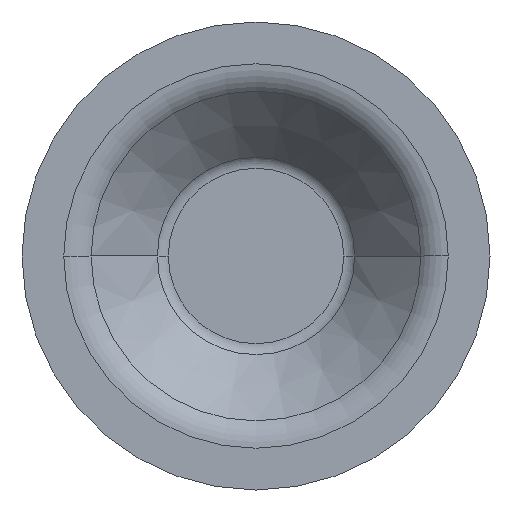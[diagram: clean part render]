
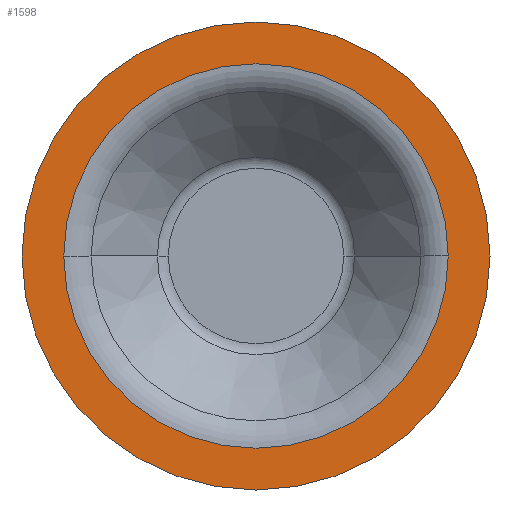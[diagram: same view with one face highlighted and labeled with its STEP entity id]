
A CAD part, front view. The second image highlights one B-rep face of the part: STEP entity #1598.
In plain terms, the highlighted planar face has unit normal (0, -1, 0).
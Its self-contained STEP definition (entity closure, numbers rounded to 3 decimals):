
#30 = CIRCLE ( 'NONE', #1418, 25.88 ) ;
#43 = EDGE_CURVE ( 'NONE', #1637, #225, #1575, .T. ) ;
#148 = DIRECTION ( 'NONE',  ( 0., -1., 0. ) ) ;
#171 = DIRECTION ( 'NONE',  ( 0., -1., 0. ) ) ;
#189 = FACE_OUTER_BOUND ( 'NONE', #989, .T. ) ;
#192 = DIRECTION ( 'NONE',  ( 0., -1., 0. ) ) ;
#212 = ORIENTED_EDGE ( 'NONE', *, *, #1488, .F. ) ;
#225 = VERTEX_POINT ( 'NONE', #723 ) ;
#262 = ORIENTED_EDGE ( 'NONE', *, *, #1585, .F. ) ;
#293 = VERTEX_POINT ( 'NONE', #564 ) ;
#311 = DIRECTION ( 'NONE',  ( 1., 0., 0. ) ) ;
#358 = DIRECTION ( 'NONE',  ( 0., -1., 0. ) ) ;
#396 = CARTESIAN_POINT ( 'NONE',  ( 0., -15., 0. ) ) ;
#417 = CARTESIAN_POINT ( 'NONE',  ( 0., -15., 0. ) ) ;
#438 = AXIS2_PLACEMENT_3D ( 'NONE', #585, #192, #936 ) ;
#477 = CARTESIAN_POINT ( 'NONE',  ( 0., -15., 0. ) ) ;
#499 = VERTEX_POINT ( 'NONE', #998 ) ;
#564 = CARTESIAN_POINT ( 'NONE',  ( 25.88, -15., 0. ) ) ;
#567 = CARTESIAN_POINT ( 'NONE',  ( 31.5, -15., 0. ) ) ;
#585 = CARTESIAN_POINT ( 'NONE',  ( 0., -15., 0. ) ) ;
#652 = DIRECTION ( 'NONE',  ( -1., 0., 0. ) ) ;
#665 = DIRECTION ( 'NONE',  ( 0., -1., 0. ) ) ;
#667 = AXIS2_PLACEMENT_3D ( 'NONE', #417, #665, #1177 ) ;
#723 = CARTESIAN_POINT ( 'NONE',  ( -31.5, -15., 0. ) ) ;
#813 = CIRCLE ( 'NONE', #1239, 31.5 ) ;
#819 = FACE_BOUND ( 'NONE', #1562, .T. ) ;
#863 = EDGE_CURVE ( 'NONE', #225, #1637, #813, .T. ) ;
#926 = PLANE ( 'NONE',  #1520 ) ;
#936 = DIRECTION ( 'NONE',  ( 1., 0., 0. ) ) ;
#989 = EDGE_LOOP ( 'NONE', ( #1587, #1525 ) ) ;
#998 = CARTESIAN_POINT ( 'NONE',  ( -25.88, -15., 0. ) ) ;
#1177 = DIRECTION ( 'NONE',  ( -1., 0., 0. ) ) ;
#1213 = DIRECTION ( 'NONE',  ( 1., 0., 0. ) ) ;
#1239 = AXIS2_PLACEMENT_3D ( 'NONE', #477, #358, #1213 ) ;
#1367 = CARTESIAN_POINT ( 'NONE',  ( 31.5, -15., 0. ) ) ;
#1393 = CIRCLE ( 'NONE', #667, 25.88 ) ;
#1418 = AXIS2_PLACEMENT_3D ( 'NONE', #396, #148, #652 ) ;
#1488 = EDGE_CURVE ( 'NONE', #499, #293, #30, .T. ) ;
#1520 = AXIS2_PLACEMENT_3D ( 'NONE', #1367, #171, #311 ) ;
#1525 = ORIENTED_EDGE ( 'NONE', *, *, #863, .T. ) ;
#1562 = EDGE_LOOP ( 'NONE', ( #212, #262 ) ) ;
#1575 = CIRCLE ( 'NONE', #438, 31.5 ) ;
#1585 = EDGE_CURVE ( 'NONE', #293, #499, #1393, .T. ) ;
#1587 = ORIENTED_EDGE ( 'NONE', *, *, #43, .T. ) ;
#1598 = ADVANCED_FACE ( 'NONE', ( #819, #189 ), #926, .T. ) ;
#1637 = VERTEX_POINT ( 'NONE', #567 ) ;
